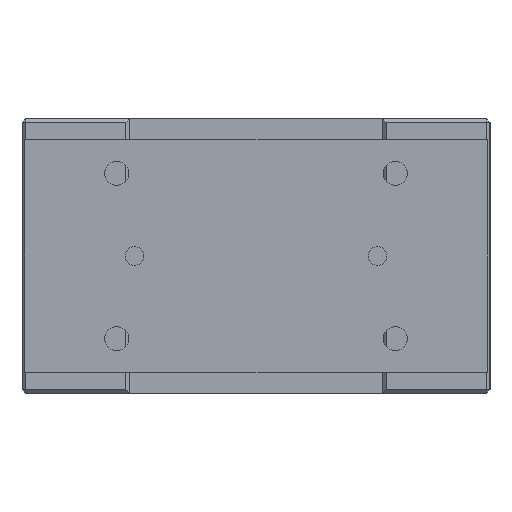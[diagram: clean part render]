
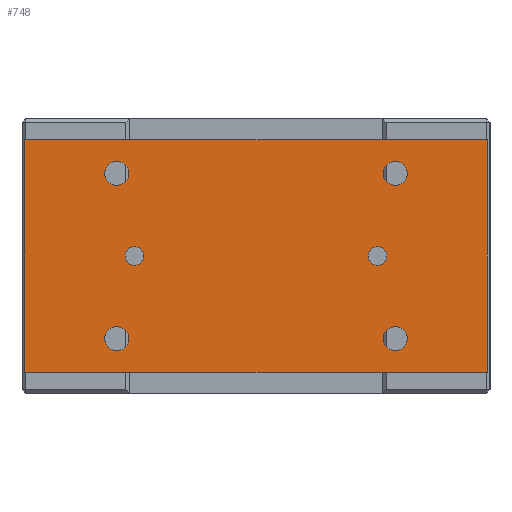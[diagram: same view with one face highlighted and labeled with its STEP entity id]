
A CAD part, left-side view. The second image highlights one B-rep face of the part: STEP entity #748.
In plain terms, the highlighted planar face has unit normal (-1, 0, 0).
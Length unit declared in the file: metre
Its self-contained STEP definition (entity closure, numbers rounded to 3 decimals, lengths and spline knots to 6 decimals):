
#748 = ADVANCED_FACE( '', ( #1638, #1639, #1640, #1641, #1642, #1643, #1644 ), #1645, .T. );
#1638 = FACE_BOUND( '', #2532, .T. );
#1639 = FACE_BOUND( '', #2533, .T. );
#1640 = FACE_BOUND( '', #2534, .T. );
#1641 = FACE_BOUND( '', #2535, .T. );
#1642 = FACE_BOUND( '', #2536, .T. );
#1643 = FACE_BOUND( '', #2537, .T. );
#1644 = FACE_OUTER_BOUND( '', #2538, .T. );
#1645 = PLANE( '', #2539 );
#2532 = EDGE_LOOP( '', ( #4281 ) );
#2533 = EDGE_LOOP( '', ( #4282 ) );
#2534 = EDGE_LOOP( '', ( #4283 ) );
#2535 = EDGE_LOOP( '', ( #4284 ) );
#2536 = EDGE_LOOP( '', ( #4285 ) );
#2537 = EDGE_LOOP( '', ( #4286 ) );
#2538 = EDGE_LOOP( '', ( #4287, #4288, #4289, #4290 ) );
#2539 = AXIS2_PLACEMENT_3D( '', #4291, #4292, #4293 );
#4281 = ORIENTED_EDGE( '', *, *, #4875, .F. );
#4282 = ORIENTED_EDGE( '', *, *, #4721, .T. );
#4283 = ORIENTED_EDGE( '', *, *, #4566, .F. );
#4284 = ORIENTED_EDGE( '', *, *, #4771, .F. );
#4285 = ORIENTED_EDGE( '', *, *, #4737, .F. );
#4286 = ORIENTED_EDGE( '', *, *, #4809, .F. );
#4287 = ORIENTED_EDGE( '', *, *, #4807, .T. );
#4288 = ORIENTED_EDGE( '', *, *, #4892, .T. );
#4289 = ORIENTED_EDGE( '', *, *, #4903, .T. );
#4290 = ORIENTED_EDGE( '', *, *, #4744, .T. );
#4291 = CARTESIAN_POINT( '', ( -0.143, -0.1245, -0.0115 ) );
#4292 = DIRECTION( '', ( -1., 0., 0. ) );
#4293 = DIRECTION( '', ( 0., 0., 1. ) );
#4566 = EDGE_CURVE( '', #5379, #5379, #5380, .T. );
#4721 = EDGE_CURVE( '', #5603, #5603, #5604, .T. );
#4737 = EDGE_CURVE( '', #5623, #5623, #5624, .T. );
#4744 = EDGE_CURVE( '', #5634, #5632, #5635, .T. );
#4771 = EDGE_CURVE( '', #5670, #5670, #5671, .T. );
#4807 = EDGE_CURVE( '', #5632, #5715, #5717, .T. );
#4809 = EDGE_CURVE( '', #5719, #5719, #5720, .T. );
#4875 = EDGE_CURVE( '', #5801, #5801, #5802, .T. );
#4892 = EDGE_CURVE( '', #5715, #5818, #5820, .T. );
#4903 = EDGE_CURVE( '', #5818, #5634, #5833, .T. );
#5379 = VERTEX_POINT( '', #6554 );
#5380 = CIRCLE( '', #6555, 0.0065 );
#5603 = VERTEX_POINT( '', #6889 );
#5604 = CIRCLE( '', #6890, 0.005 );
#5623 = VERTEX_POINT( '', #6914 );
#5624 = CIRCLE( '', #6915, 0.0065 );
#5632 = VERTEX_POINT( '', #6956 );
#5634 = VERTEX_POINT( '', #6959 );
#5635 = LINE( '', #6960, #6961 );
#5670 = VERTEX_POINT( '', #7004 );
#5671 = CIRCLE( '', #7005, 0.0065 );
#5715 = VERTEX_POINT( '', #7067 );
#5717 = LINE( '', #7070, #7071 );
#5719 = VERTEX_POINT( '', #7073 );
#5720 = CIRCLE( '', #7074, 0.0065 );
#5801 = VERTEX_POINT( '', #7234 );
#5802 = CIRCLE( '', #7235, 0.005 );
#5818 = VERTEX_POINT( '', #7256 );
#5820 = LINE( '', #7259, #7260 );
#5833 = LINE( '', #7275, #7276 );
#6554 = CARTESIAN_POINT( '', ( -0.143, -0.075, -0.112 ) );
#6555 = AXIS2_PLACEMENT_3D( '', #7612, #7613, #7614 );
#6889 = CARTESIAN_POINT( '', ( -0.143, 0.0705, -0.074 ) );
#6890 = AXIS2_PLACEMENT_3D( '', #7804, #7805, #7806 );
#6914 = CARTESIAN_POINT( '', ( -0.143, -0.075, -0.023 ) );
#6915 = AXIS2_PLACEMENT_3D( '', #7821, #7822, #7823 );
#6956 = CARTESIAN_POINT( '', ( -0.143, -0.1245, -0.1365 ) );
#6959 = CARTESIAN_POINT( '', ( -0.143, 0.1245, -0.1365 ) );
#6960 = CARTESIAN_POINT( '', ( -0.143, 0.1245, -0.1365 ) );
#6961 = VECTOR( '', #7828, 1. );
#7004 = CARTESIAN_POINT( '', ( -0.143, 0.075, -0.112 ) );
#7005 = AXIS2_PLACEMENT_3D( '', #7852, #7853, #7854 );
#7067 = CARTESIAN_POINT( '', ( -0.143, -0.1245, -0.0115 ) );
#7070 = CARTESIAN_POINT( '', ( -0.143, -0.1245, -0.1365 ) );
#7071 = VECTOR( '', #7883, 1. );
#7073 = CARTESIAN_POINT( '', ( -0.143, 0.075, -0.023 ) );
#7074 = AXIS2_PLACEMENT_3D( '', #7884, #7885, #7886 );
#7234 = CARTESIAN_POINT( '', ( -0.143, -0.0705, -0.074 ) );
#7235 = AXIS2_PLACEMENT_3D( '', #7936, #7937, #7938 );
#7256 = CARTESIAN_POINT( '', ( -0.143, 0.1245, -0.0115 ) );
#7259 = CARTESIAN_POINT( '', ( -0.143, -0.1245, -0.0115 ) );
#7260 = VECTOR( '', #7945, 1. );
#7275 = CARTESIAN_POINT( '', ( -0.143, 0.1245, -0.0115 ) );
#7276 = VECTOR( '', #7954, 1. );
#7612 = CARTESIAN_POINT( '', ( -0.143, -0.075, -0.1185 ) );
#7613 = DIRECTION( '', ( -1., 0., 0. ) );
#7614 = DIRECTION( '', ( 0., 0., 1. ) );
#7804 = CARTESIAN_POINT( '', ( -0.143, 0.0655, -0.074 ) );
#7805 = DIRECTION( '', ( 1., 0., 0. ) );
#7806 = DIRECTION( '', ( 0., 1., 0. ) );
#7821 = CARTESIAN_POINT( '', ( -0.143, -0.075, -0.0295 ) );
#7822 = DIRECTION( '', ( -1., 0., 0. ) );
#7823 = DIRECTION( '', ( 0., 0., 1. ) );
#7828 = DIRECTION( '', ( 0., -1., 0. ) );
#7852 = CARTESIAN_POINT( '', ( -0.143, 0.075, -0.1185 ) );
#7853 = DIRECTION( '', ( -1., 0., 0. ) );
#7854 = DIRECTION( '', ( 0., 0., 1. ) );
#7883 = DIRECTION( '', ( 0., 0., 1. ) );
#7884 = CARTESIAN_POINT( '', ( -0.143, 0.075, -0.0295 ) );
#7885 = DIRECTION( '', ( -1., 0., 0. ) );
#7886 = DIRECTION( '', ( 0., 0., 1. ) );
#7936 = CARTESIAN_POINT( '', ( -0.143, -0.0655, -0.074 ) );
#7937 = DIRECTION( '', ( -1., 0., 0. ) );
#7938 = DIRECTION( '', ( 0., -1., 0. ) );
#7945 = DIRECTION( '', ( 0., 1., 0. ) );
#7954 = DIRECTION( '', ( 0., 0., -1. ) );
